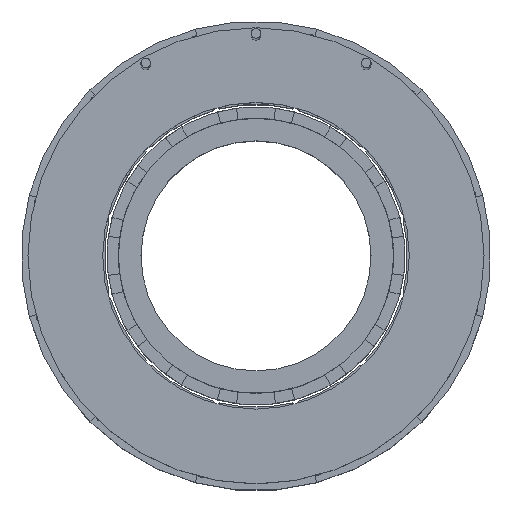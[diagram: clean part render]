
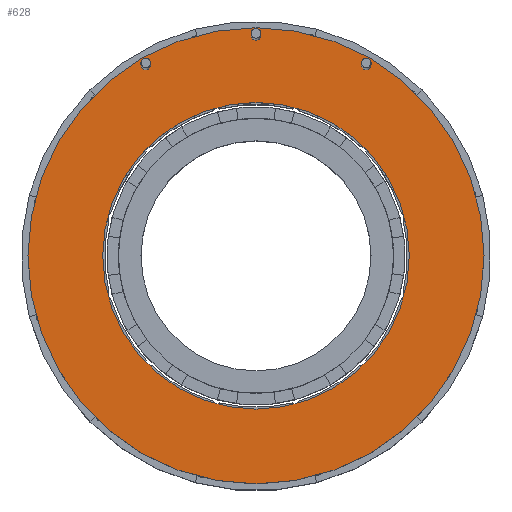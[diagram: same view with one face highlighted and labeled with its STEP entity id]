
A CAD part, top view. The second image highlights one B-rep face of the part: STEP entity #628.
In plain terms, the highlighted planar face has unit normal (0, 0, 1).
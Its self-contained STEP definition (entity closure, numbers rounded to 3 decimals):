
#7 = DIRECTION ( 'NONE',  ( 0., 0., 1. ) ) ;
#106 = DIRECTION ( 'NONE',  ( 1., 0., 0. ) ) ;
#126 = CARTESIAN_POINT ( 'NONE',  ( 0., 0., 56.5 ) ) ;
#143 = AXIS2_PLACEMENT_3D ( 'NONE', #446, #7, #2173 ) ;
#198 = ORIENTED_EDGE ( 'NONE', *, *, #608, .T. ) ;
#279 = AXIS2_PLACEMENT_3D ( 'NONE', #393, #1122, #2786 ) ;
#393 = CARTESIAN_POINT ( 'NONE',  ( 0., 0., 56.5 ) ) ;
#446 = CARTESIAN_POINT ( 'NONE',  ( 0., 0., 56.5 ) ) ;
#491 = CARTESIAN_POINT ( 'NONE',  ( -59.5, 0., 56.5 ) ) ;
#572 = CIRCLE ( 'NONE', #2763, 59.5 ) ;
#608 = EDGE_CURVE ( 'NONE', #2072, #1117, #572, .T. ) ;
#628 = ADVANCED_FACE ( 'NONE', ( #1277, #2238 ), #2966, .T. ) ;
#861 = CARTESIAN_POINT ( 'NONE',  ( 0., 0., 56.5 ) ) ;
#911 = ORIENTED_EDGE ( 'NONE', *, *, #2408, .F. ) ;
#936 = EDGE_LOOP ( 'NONE', ( #198, #2889 ) ) ;
#939 = CIRCLE ( 'NONE', #279, 40. ) ;
#1052 = CARTESIAN_POINT ( 'NONE',  ( 0., 0., 56.5 ) ) ;
#1082 = CIRCLE ( 'NONE', #143, 40. ) ;
#1117 = VERTEX_POINT ( 'NONE', #1627 ) ;
#1122 = DIRECTION ( 'NONE',  ( 0., 0., 1. ) ) ;
#1248 = EDGE_CURVE ( 'NONE', #1117, #2072, #1787, .T. ) ;
#1277 = FACE_OUTER_BOUND ( 'NONE', #936, .T. ) ;
#1433 = VERTEX_POINT ( 'NONE', #2921 ) ;
#1627 = CARTESIAN_POINT ( 'NONE',  ( 59.5, 0., 56.5 ) ) ;
#1778 = CARTESIAN_POINT ( 'NONE',  ( -40., 0., 56.5 ) ) ;
#1787 = CIRCLE ( 'NONE', #2482, 59.5 ) ;
#1830 = EDGE_CURVE ( 'NONE', #1433, #2998, #939, .T. ) ;
#2000 = DIRECTION ( 'NONE',  ( 0., 0., 1. ) ) ;
#2003 = DIRECTION ( 'NONE',  ( 0., 0., 1. ) ) ;
#2036 = DIRECTION ( 'NONE',  ( 1., 0., 0. ) ) ;
#2072 = VERTEX_POINT ( 'NONE', #491 ) ;
#2173 = DIRECTION ( 'NONE',  ( 1., 0., 0. ) ) ;
#2238 = FACE_BOUND ( 'NONE', #2332, .T. ) ;
#2320 = AXIS2_PLACEMENT_3D ( 'NONE', #1052, #2927, #2714 ) ;
#2332 = EDGE_LOOP ( 'NONE', ( #911, #2604 ) ) ;
#2408 = EDGE_CURVE ( 'NONE', #2998, #1433, #1082, .T. ) ;
#2482 = AXIS2_PLACEMENT_3D ( 'NONE', #861, #2000, #2036 ) ;
#2604 = ORIENTED_EDGE ( 'NONE', *, *, #1830, .F. ) ;
#2714 = DIRECTION ( 'NONE',  ( 1., 0., 0. ) ) ;
#2763 = AXIS2_PLACEMENT_3D ( 'NONE', #126, #2003, #106 ) ;
#2786 = DIRECTION ( 'NONE',  ( 1., 0., 0. ) ) ;
#2889 = ORIENTED_EDGE ( 'NONE', *, *, #1248, .T. ) ;
#2921 = CARTESIAN_POINT ( 'NONE',  ( 40., 0., 56.5 ) ) ;
#2927 = DIRECTION ( 'NONE',  ( 0., 0., 1. ) ) ;
#2966 = PLANE ( 'NONE',  #2320 ) ;
#2998 = VERTEX_POINT ( 'NONE', #1778 ) ;
